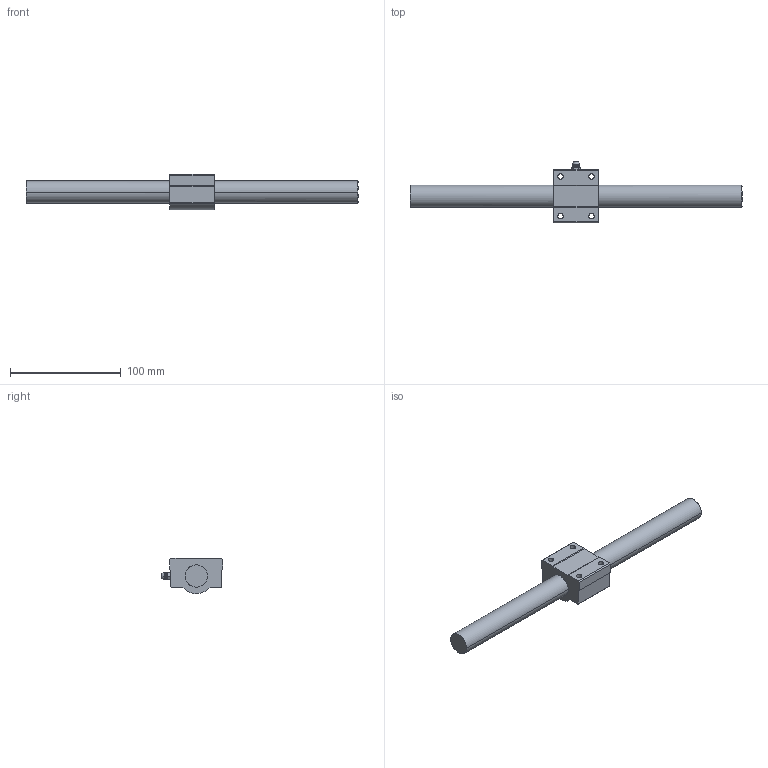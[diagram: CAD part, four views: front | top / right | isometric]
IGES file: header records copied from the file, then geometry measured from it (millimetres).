
Global section: file name: No Iges File Name specified; native system: AutoDesk Inventor R10; preprocessor: AutoDesk Inventor Iges Exporter R10; author: No Author specified; organization: No Organization specified; date: 20101224.145657; units: millimetre
Bounding box: 300 x 55.8 x 32 mm (x, y, z)
Surface area: 31561.8 mm2 (no closed solid volume)
Topology: 0 solids, 0 shells, 78 faces, 474 edges, 470 vertices
Faces by surface type: bspline 78
